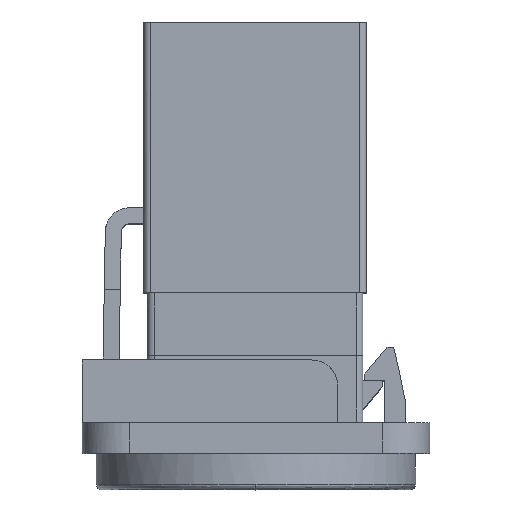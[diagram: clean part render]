
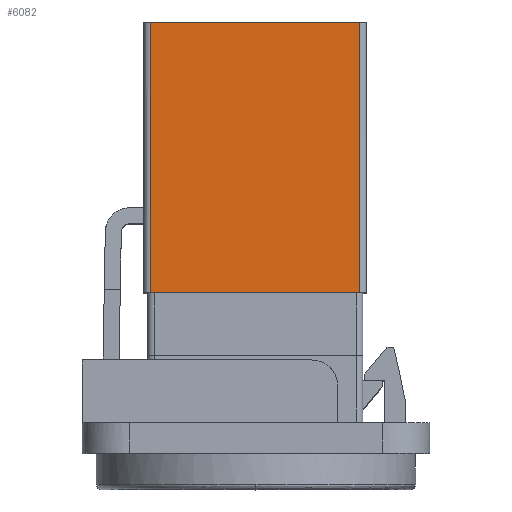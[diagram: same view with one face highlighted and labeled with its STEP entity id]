
A CAD part, top view. The second image highlights one B-rep face of the part: STEP entity #6082.
In plain terms, the highlighted free-form (B-spline) face has degree [1, 1] with [2, 2] control points.
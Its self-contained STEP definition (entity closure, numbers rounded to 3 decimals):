
#6031 = VERTEX_POINT('',#6032);
#6032 = CARTESIAN_POINT('',(35.,14.48,-0.215));
#6050 = EDGE_CURVE('',#6031,#6051,#6053,.T.);
#6051 = VERTEX_POINT('',#6052);
#6052 = CARTESIAN_POINT('',(14.725,14.48,-0.215));
#6053 = B_SPLINE_CURVE_WITH_KNOTS('',5,(#6054,#6055,#6056,#6057,#6058,
    #6059),.UNSPECIFIED.,.F.,.F.,(6,6),(0.,20.275),
  .PIECEWISE_BEZIER_KNOTS.);
#6054 = CARTESIAN_POINT('',(35.,14.48,-0.215));
#6055 = CARTESIAN_POINT('',(30.945,14.48,-0.215));
#6056 = CARTESIAN_POINT('',(26.89,14.48,-0.215));
#6057 = CARTESIAN_POINT('',(22.835,14.48,-0.215));
#6058 = CARTESIAN_POINT('',(18.78,14.48,-0.215));
#6059 = CARTESIAN_POINT('',(14.725,14.48,-0.215));
#6082 = ADVANCED_FACE('',(#6083),#6117,.T.);
#6083 = FACE_BOUND('',#6084,.T.);
#6084 = EDGE_LOOP('',(#6085,#6098,#6107,#6108));
#6085 = ORIENTED_EDGE('',*,*,#6086,.F.);
#6086 = EDGE_CURVE('',#6087,#6089,#6091,.T.);
#6087 = VERTEX_POINT('',#6088);
#6088 = CARTESIAN_POINT('',(14.725,14.48,-15.915));
#6089 = VERTEX_POINT('',#6090);
#6090 = CARTESIAN_POINT('',(35.,14.48,-15.915));
#6091 = B_SPLINE_CURVE_WITH_KNOTS('',5,(#6092,#6093,#6094,#6095,#6096,
    #6097),.UNSPECIFIED.,.F.,.F.,(6,6),(0.,20.275),
  .PIECEWISE_BEZIER_KNOTS.);
#6092 = CARTESIAN_POINT('',(14.725,14.48,-15.915));
#6093 = CARTESIAN_POINT('',(18.78,14.48,-15.915));
#6094 = CARTESIAN_POINT('',(22.835,14.48,-15.915));
#6095 = CARTESIAN_POINT('',(26.89,14.48,-15.915));
#6096 = CARTESIAN_POINT('',(30.945,14.48,-15.915));
#6097 = CARTESIAN_POINT('',(35.,14.48,-15.915));
#6098 = ORIENTED_EDGE('',*,*,#6099,.T.);
#6099 = EDGE_CURVE('',#6087,#6051,#6100,.T.);
#6100 = B_SPLINE_CURVE_WITH_KNOTS('',5,(#6101,#6102,#6103,#6104,#6105,
    #6106),.UNSPECIFIED.,.F.,.F.,(6,6),(0.,15.7),
  .PIECEWISE_BEZIER_KNOTS.);
#6101 = CARTESIAN_POINT('',(14.725,14.48,-15.915));
#6102 = CARTESIAN_POINT('',(14.725,14.48,-12.775));
#6103 = CARTESIAN_POINT('',(14.725,14.48,-9.635));
#6104 = CARTESIAN_POINT('',(14.725,14.48,-6.495));
#6105 = CARTESIAN_POINT('',(14.725,14.48,-3.355));
#6106 = CARTESIAN_POINT('',(14.725,14.48,-0.215));
#6107 = ORIENTED_EDGE('',*,*,#6050,.F.);
#6108 = ORIENTED_EDGE('',*,*,#6109,.T.);
#6109 = EDGE_CURVE('',#6031,#6089,#6110,.T.);
#6110 = B_SPLINE_CURVE_WITH_KNOTS('',5,(#6111,#6112,#6113,#6114,#6115,
    #6116),.UNSPECIFIED.,.F.,.F.,(6,6),(0.,15.7),
  .PIECEWISE_BEZIER_KNOTS.);
#6111 = CARTESIAN_POINT('',(35.,14.48,-0.215));
#6112 = CARTESIAN_POINT('',(35.,14.48,-3.355));
#6113 = CARTESIAN_POINT('',(35.,14.48,-6.495));
#6114 = CARTESIAN_POINT('',(35.,14.48,-9.635));
#6115 = CARTESIAN_POINT('',(35.,14.48,-12.775));
#6116 = CARTESIAN_POINT('',(35.,14.48,-15.915));
#6117 = B_SPLINE_SURFACE_WITH_KNOTS('',1,1,(
    (#6118,#6119)
    ,(#6120,#6121
    )),.UNSPECIFIED.,.F.,.F.,.F.,(2,2),(2,2),(0.,1.),(0.,1.291)
  ,.PIECEWISE_BEZIER_KNOTS.);
#6118 = CARTESIAN_POINT('',(14.725,14.48,-15.915));
#6119 = CARTESIAN_POINT('',(35.,14.48,-15.915));
#6120 = CARTESIAN_POINT('',(14.725,14.48,-0.215));
#6121 = CARTESIAN_POINT('',(35.,14.48,-0.215));
